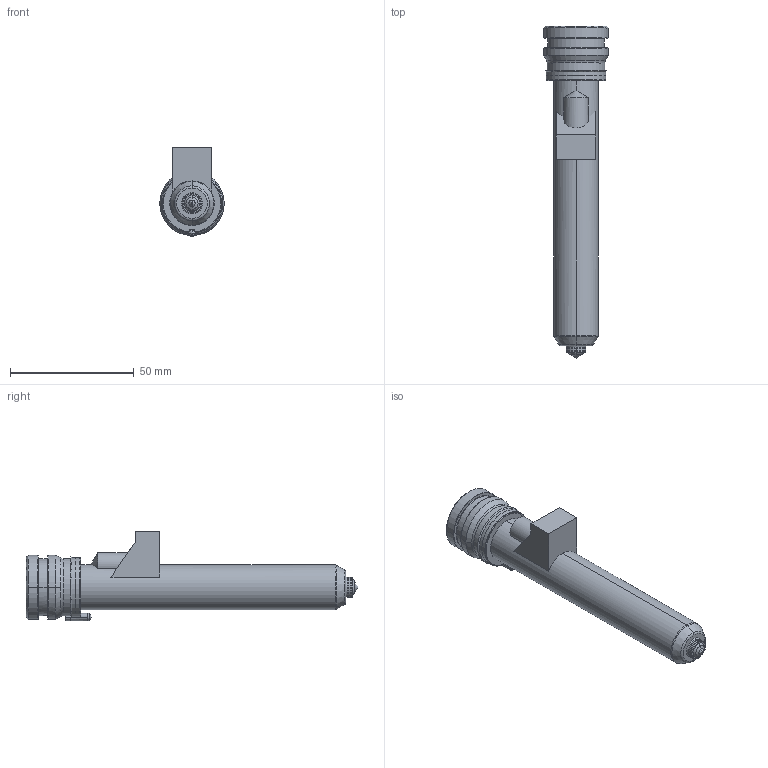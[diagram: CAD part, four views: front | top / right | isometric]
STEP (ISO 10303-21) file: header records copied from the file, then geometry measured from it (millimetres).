
FILE_DESCRIPTION((''),'2;1');
FILE_NAME('TH18116-M-1-PK-JG','2023-12-14T',('umhib'),('Thermoplay S.p.A.'),'PRO/ENGINEER BY PARAMETRIC TECHNOLOGY CORPORATION, 2017170','PRO/ENGINEER BY PARAMETRIC TECHNOLOGY CORPORATION, 2017170','');
FILE_SCHEMA(('CONFIG_CONTROL_DESIGN'));
Length unit declared in the file: millimetre
Products named in the file (1): TH18116-M-1-PK-JG
Bounding box: 26 x 134 x 36.1 mm (x, y, z)
Volume: 27868.2 mm3; surface area: 21223.8 mm2
Topology: 1 solids, 2 shells, 391 faces, 999 edges, 613 vertices
Faces by surface type: cylinder 149, plane 87, cone 62, torus 58, bspline 22, sphere 11, extrusion 2
Entity records: 16792 total; most frequent: CARTESIAN_POINT 5164, DIRECTION 2000, ORIENTED_EDGE 1972, EDGE_CURVE 988, AXIS2_PLACEMENT_3D 806, VERTEX_POINT 613, CIRCLE 438, EDGE_LOOP 414
